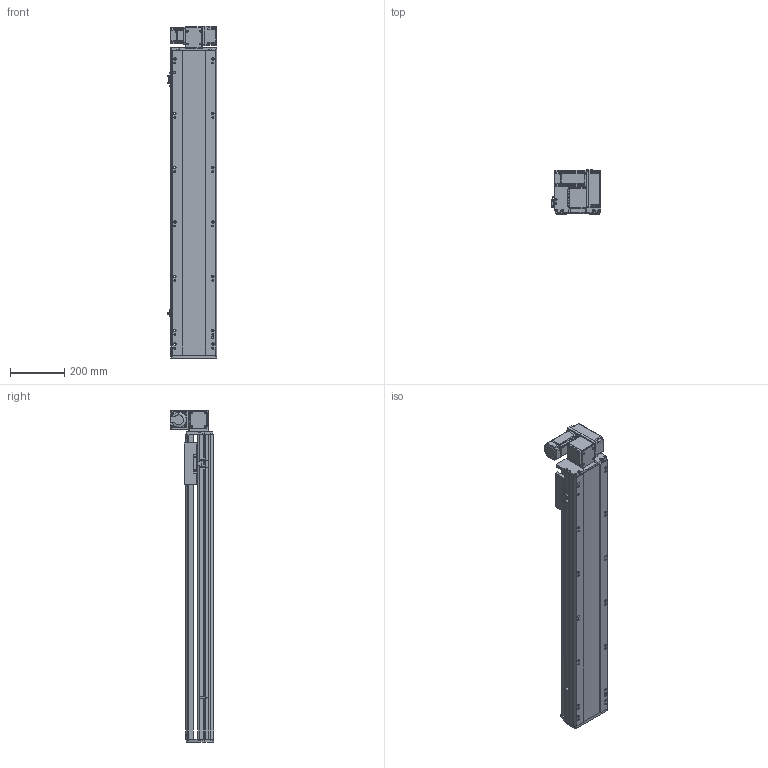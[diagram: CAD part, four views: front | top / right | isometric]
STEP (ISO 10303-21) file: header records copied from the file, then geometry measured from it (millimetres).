
FILE_DESCRIPTION (( 'STEP AP214' ), '1' );
FILE_NAME ('RTB17S-XX-850-RW-M40-C4.STEP', '2025-12-11T08:52:51', ( '' ), ( '' ), 'SwSTEP 2.0', 'SolidWorks 2018', '' );
FILE_SCHEMA (( 'AUTOMOTIVE_DESIGN' ));
Length unit declared in the file: millimetre
Products named in the file (14): RTB14-L-008-M20--萇儂啣^RTB17S-RW-々湍釱蚾饜-400W_RTB17S-XX-XX-RW-M40-C4; RTB14-L-017P^RTB17S-RW-々湍釱蚾饜-400W_RTB17S-XX-XX-RW-M40-C4; RTB14-L-005P--轴承塑胶压盖^RTB17S-RW-皮带座装配-400W_RTB17S-XX-XX-RW-M40-C4; 400W侜督萇儂^RTB17S-XX-XX-RW-M40-C4; RTH13-BL-012覜茼え俋离^RTB17S-XX-XX-RW-M40-C4; RTB17S-L-004佪裝蹟譫蟀諉釱^RTB17S-XX-XX-RW-M40-C4; RTB17S-XX-850-RW-M40-C4; RTB17S-L-001耜醱啣^RTB17S-XX-XX-RW-M40-C4; RMP17S-L-014-T20--々湍釱^RTB17S-RW-々湍釱蚾饜-400W_RTB17S-XX-XX-RW-M40-C4; RTB14-L-018P^RTB17S-RW-々湍釱蚾饜-400W_RTB17S-XX-XX-RW-M40-C4; RTB17S-L-007奻裔^RTB17S-XX-XX-RW-M40-C4; RTB17S-RW-々湍釱蚾饜-400W^RTB17S-XX-XX-RW-M40-C4; RTB17-R-011菁釱^RTB17S-XX-XX-RW-M40-C4; OMRON EE-SX672 传感器^RTB17S-XX-XX-RW-M40-C4
Assembly tree (16 placements, depth 3):
  RTB17S-XX-850-RW-M40-C4
    RTB17-R-011菁釱^RTB17S-XX-XX-RW-M40-C4
    RTB17S-L-007奻裔^RTB17S-XX-XX-RW-M40-C4
    OMRON EE-SX672 传感器^RTB17S-XX-XX-RW-M40-C4  x3
    RTB17S-L-001耜醱啣^RTB17S-XX-XX-RW-M40-C4
    400W侜督萇儂^RTB17S-XX-XX-RW-M40-C4
    RTB17S-L-004佪裝蹟譫蟀諉釱^RTB17S-XX-XX-RW-M40-C4
    RTH13-BL-012覜茼え俋离^RTB17S-XX-XX-RW-M40-C4
    RTB17S-RW-々湍釱蚾饜-400W^RTB17S-XX-XX-RW-M40-C4
      RMP17S-L-014-T20--々湍釱^RTB17S-RW-々湍釱蚾饜-400W_RTB17S-XX-XX-RW-M40-C4
      RTB14-L-005P--轴承塑胶压盖^RTB17S-RW-皮带座装配-400W_RTB17S-XX-XX-RW-M40-C4
      RTB14-L-008-M20--萇儂啣^RTB17S-RW-々湍釱蚾饜-400W_RTB17S-XX-XX-RW-M40-C4
      RTB14-L-017P^RTB17S-RW-々湍釱蚾饜-400W_RTB17S-XX-XX-RW-M40-C4  x2
      RTB14-L-018P^RTB17S-RW-々湍釱蚾饜-400W_RTB17S-XX-XX-RW-M40-C4
Bounding box: 183.5 x 160.5 x 1222.5 mm (x, y, z)
Volume: 11145888.7 mm3; surface area: 1366469.8 mm2
Topology: 15 solids, 15 shells, 2205 faces, 6087 edges, 3969 vertices
Faces by surface type: plane 1068, cylinder 689, bspline 301, cone 139, torus 8
Entity records: 62633 total; most frequent: CARTESIAN_POINT 17492, ORIENTED_EDGE 9018, DIRECTION 8396, EDGE_CURVE 4509, VERTEX_POINT 2957, AXIS2_PLACEMENT_3D 2887, LINE 2622, VECTOR 2622
